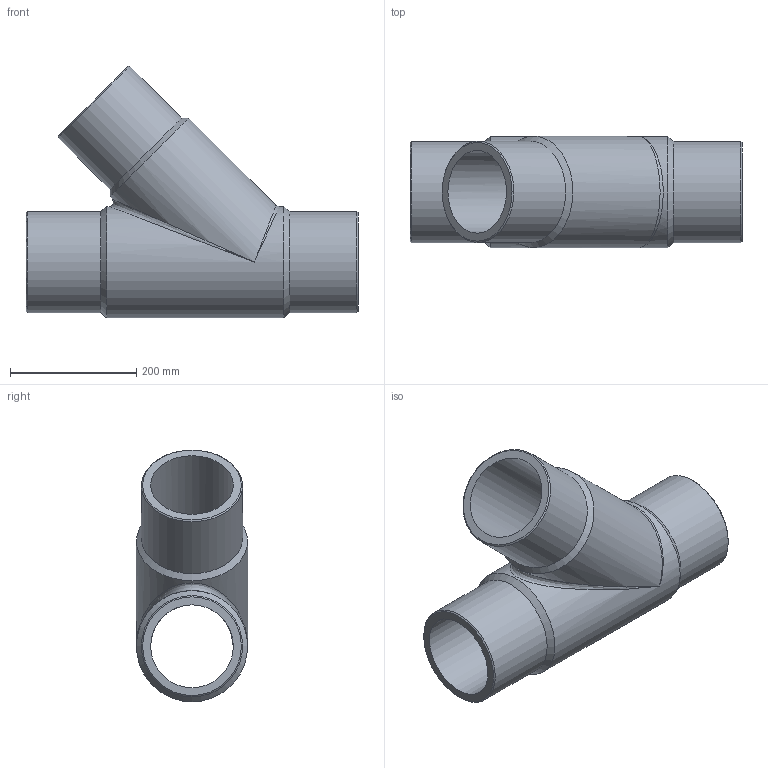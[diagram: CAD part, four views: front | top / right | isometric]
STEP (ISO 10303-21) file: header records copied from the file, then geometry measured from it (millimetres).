
FILE_DESCRIPTION(/* description */ ('Unknown'),/* implementation_level */ '2;1');
FILE_NAME(/* name */ 'T4P160C',/* time_stamp */ '2022-02-23T10:58:19+01:00',/* author */ ('Unknown'),/* organization */ ('Unknown'),/* preprocessor_version */ 'ST-DEVELOPER v18.1',/* originating_system */ 'Solid Edge',/* authorisation */ 'Unknown');
FILE_SCHEMA (('AUTOMOTIVE_DESIGN {1 0 10303 214 3 1 1}'));
Length unit declared in the file: millimetre
Products named in the file (1): T4P160C
Bounding box: 525 x 176 x 398.03 mm (x, y, z)
Volume: 6621858.9 mm3; surface area: 720850.1 mm2
Topology: 1 solids, 1 shells, 18 faces, 47 edges, 26 vertices
Faces by surface type: cylinder 7, cone 6, plane 3, bspline 2
Full cylindrical faces by diameter (mm): 130.8 x2, 160 x3, 176 x2
Entity records: 522 total; most frequent: CARTESIAN_POINT 165, DIRECTION 76, ORIENTED_EDGE 42, AXIS2_PLACEMENT_3D 38, EDGE_LOOP 36, FACE_BOUND 36, EDGE_CURVE 21, VERTEX_POINT 19
